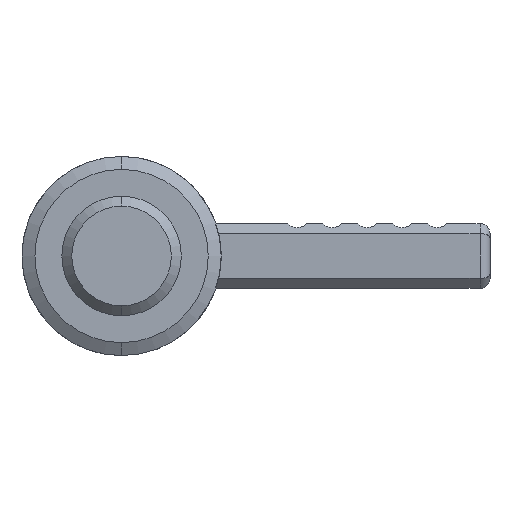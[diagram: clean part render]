
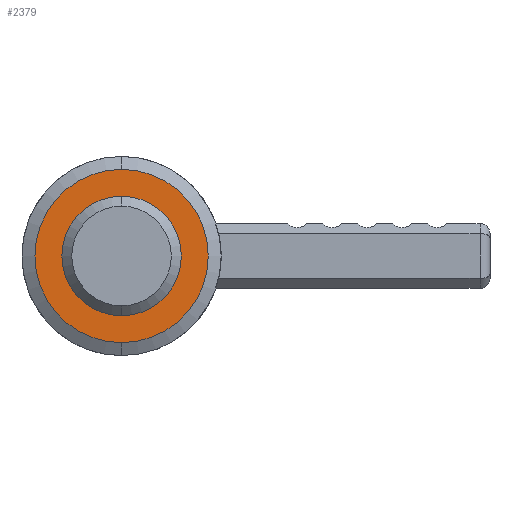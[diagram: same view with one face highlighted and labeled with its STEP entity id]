
A CAD part, front view. The second image highlights one B-rep face of the part: STEP entity #2379.
In plain terms, the highlighted planar face has unit normal (0, -1, 0).
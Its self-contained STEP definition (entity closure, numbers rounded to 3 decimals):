
#273 = VERTEX_POINT ( 'NONE', #3155 ) ;
#910 = DIRECTION ( 'NONE',  ( 0., 0., -1. ) ) ;
#911 = DIRECTION ( 'NONE',  ( 0., -1., 0. ) ) ;
#912 = CARTESIAN_POINT ( 'NONE',  ( 0., 0., 0. ) ) ;
#913 = AXIS2_PLACEMENT_3D ( 'NONE', #912, #911, #910 ) ;
#914 = CIRCLE ( 'NONE', #913, 8.701 ) ;
#915 = CARTESIAN_POINT ( 'NONE',  ( 0., 0., 8.701 ) ) ;
#916 = CARTESIAN_POINT ( 'NONE',  ( 0., 0., -8.701 ) ) ;
#925 = DIRECTION ( 'NONE',  ( 0., 0., -1. ) ) ;
#926 = DIRECTION ( 'NONE',  ( 0., -1., 0. ) ) ;
#927 = CARTESIAN_POINT ( 'NONE',  ( 0., 0., 0. ) ) ;
#928 = AXIS2_PLACEMENT_3D ( 'NONE', #927, #926, #925 ) ;
#929 = CIRCLE ( 'NONE', #928, 6. ) ;
#951 = CARTESIAN_POINT ( 'NONE',  ( 0., 0., 6. ) ) ;
#2372 = EDGE_CURVE ( 'NONE', #273, #4497, #3997, .T. ) ;
#2373 = ORIENTED_EDGE ( 'NONE', *, *, #2372, .F. ) ;
#2374 = EDGE_LOOP ( 'NONE', ( #2373, #2503 ) ) ;
#2375 = ORIENTED_EDGE ( 'NONE', *, *, #4485, .T. ) ;
#2376 = ORIENTED_EDGE ( 'NONE', *, *, #2377, .T. ) ;
#2377 = EDGE_CURVE ( 'NONE', #4484, #4483, #3992, .T. ) ;
#2378 = EDGE_LOOP ( 'NONE', ( #2376, #2375 ) ) ;
#2379 = ADVANCED_FACE ( 'NONE', ( #3987, #3986 ), #3985, .F. ) ;
#2503 = ORIENTED_EDGE ( 'NONE', *, *, #4509, .F. ) ;
#3155 = CARTESIAN_POINT ( 'NONE',  ( 0., 0., -6. ) ) ;
#3980 = DIRECTION ( 'NONE',  ( 0., 0., 1. ) ) ;
#3981 = DIRECTION ( 'NONE',  ( 0., 1., 0. ) ) ;
#3982 = CARTESIAN_POINT ( 'NONE',  ( -6., 0., 0. ) ) ;
#3984 = AXIS2_PLACEMENT_3D ( 'NONE', #3982, #3981, #3980 ) ;
#3985 = PLANE ( 'NONE',  #3984 ) ;
#3986 = FACE_BOUND ( 'NONE', #2374, .T. ) ;
#3987 = FACE_OUTER_BOUND ( 'NONE', #2378, .T. ) ;
#3988 = DIRECTION ( 'NONE',  ( 0., 0., -1. ) ) ;
#3989 = DIRECTION ( 'NONE',  ( 0., -1., 0. ) ) ;
#3990 = CARTESIAN_POINT ( 'NONE',  ( 0., 0., 0. ) ) ;
#3991 = AXIS2_PLACEMENT_3D ( 'NONE', #3990, #3989, #3988 ) ;
#3992 = CIRCLE ( 'NONE', #3991, 8.701 ) ;
#3993 = DIRECTION ( 'NONE',  ( 0., 0., -1. ) ) ;
#3994 = DIRECTION ( 'NONE',  ( 0., -1., 0. ) ) ;
#3995 = CARTESIAN_POINT ( 'NONE',  ( 0., 0., 0. ) ) ;
#3996 = AXIS2_PLACEMENT_3D ( 'NONE', #3995, #3994, #3993 ) ;
#3997 = CIRCLE ( 'NONE', #3996, 6. ) ;
#4483 = VERTEX_POINT ( 'NONE', #916 ) ;
#4484 = VERTEX_POINT ( 'NONE', #915 ) ;
#4485 = EDGE_CURVE ( 'NONE', #4483, #4484, #914, .T. ) ;
#4497 = VERTEX_POINT ( 'NONE', #951 ) ;
#4509 = EDGE_CURVE ( 'NONE', #4497, #273, #929, .T. ) ;
